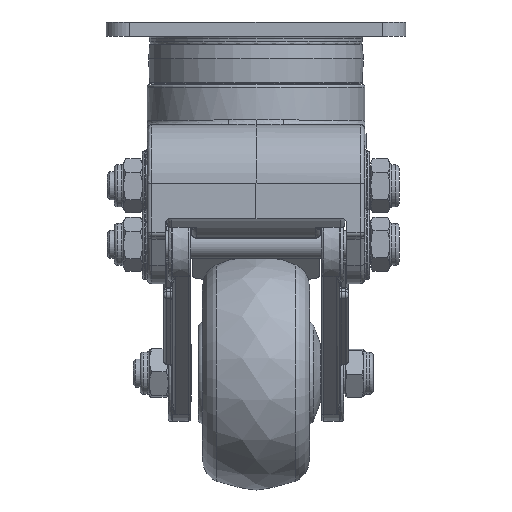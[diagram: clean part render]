
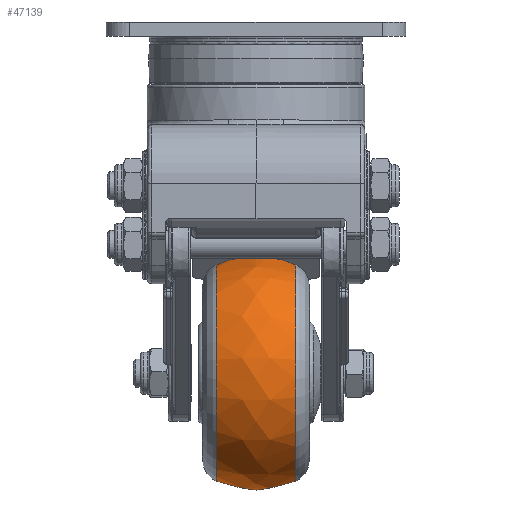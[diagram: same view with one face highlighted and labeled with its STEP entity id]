
A CAD part, left-side view. The second image highlights one B-rep face of the part: STEP entity #47139.
In plain terms, the highlighted free-form (B-spline) face has degree [2, 2] with [3, 9] control points.
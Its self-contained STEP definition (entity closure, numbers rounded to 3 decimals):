
#14=(
BOUNDED_SURFACE()
B_SPLINE_SURFACE(2,2,((#72335,#72336,#72337,#72338,#72339,#72340,#72341,
#72342,#72343),(#72344,#72345,#72346,#72347,#72348,#72349,#72350,#72351,
#72352),(#72353,#72354,#72355,#72356,#72357,#72358,#72359,#72360,#72361)),
 .UNSPECIFIED.,.F.,.T.,.F.)
B_SPLINE_SURFACE_WITH_KNOTS((3,3),(3,2,2,2,3),(-0.44,0.44),
(-3.142,-1.571,0.,1.571,3.142),
 .UNSPECIFIED.)
GEOMETRIC_REPRESENTATION_ITEM()
RATIONAL_B_SPLINE_SURFACE(((1.,0.707,1.,0.707,1.,
0.707,1.,0.707,1.),(0.905,0.64,
0.905,0.64,0.905,0.64,0.905,
0.64,0.905),(1.,0.707,1.,0.707,
1.,0.707,1.,0.707,1.)))
REPRESENTATION_ITEM('')
SURFACE()
);
#4659=CIRCLE('',#50569,23.096);
#4660=CIRCLE('',#50570,23.096);
#4661=CIRCLE('',#50571,20.);
#4662=CIRCLE('',#50572,23.096);
#4663=CIRCLE('',#50573,23.096);
#6297=FACE_OUTER_BOUND('',#9030,.T.);
#9030=EDGE_LOOP('',(#32343,#32344,#32345,#32346,#32347,#32348));
#18828=VERTEX_POINT('',#72362);
#18829=VERTEX_POINT('',#72363);
#18830=VERTEX_POINT('',#72366);
#18831=VERTEX_POINT('',#72368);
#23852=EDGE_CURVE('',#18828,#18829,#4659,.T.);
#23853=EDGE_CURVE('',#18829,#18828,#4660,.T.);
#23854=EDGE_CURVE('',#18829,#18830,#4661,.T.);
#23855=EDGE_CURVE('',#18830,#18831,#4662,.T.);
#23856=EDGE_CURVE('',#18831,#18830,#4663,.T.);
#32343=ORIENTED_EDGE('',*,*,#23852,.F.);
#32344=ORIENTED_EDGE('',*,*,#23853,.F.);
#32345=ORIENTED_EDGE('',*,*,#23854,.T.);
#32346=ORIENTED_EDGE('',*,*,#23855,.T.);
#32347=ORIENTED_EDGE('',*,*,#23856,.T.);
#32348=ORIENTED_EDGE('',*,*,#23854,.F.);
#47139=ADVANCED_FACE('',(#6297),#14,.F.);
#50569=AXIS2_PLACEMENT_3D('',#72364,#56544,#56545);
#50570=AXIS2_PLACEMENT_3D('',#72365,#56546,#56547);
#50571=AXIS2_PLACEMENT_3D('',#72367,#56548,#56549);
#50572=AXIS2_PLACEMENT_3D('',#72369,#56550,#56551);
#50573=AXIS2_PLACEMENT_3D('',#72370,#56552,#56553);
#56544=DIRECTION('center_axis',(0.,-1.,0.));
#56545=DIRECTION('ref_axis',(0.051,0.,-0.999));
#56546=DIRECTION('center_axis',(0.,-1.,0.));
#56547=DIRECTION('ref_axis',(0.051,0.,-0.999));
#56548=DIRECTION('center_axis',(-0.999,0.,
-0.051));
#56549=DIRECTION('ref_axis',(-0.051,0.,
0.999));
#56550=DIRECTION('center_axis',(0.,-1.,0.));
#56551=DIRECTION('ref_axis',(0.051,0.,-0.999));
#56552=DIRECTION('center_axis',(0.,-1.,0.));
#56553=DIRECTION('ref_axis',(0.051,0.,-0.999));
#72335=CARTESIAN_POINT('Ctrl Pts',(-42.811,-25.477,
6.017));
#72336=CARTESIAN_POINT('Ctrl Pts',(-65.877,-25.477,
4.836));
#72337=CARTESIAN_POINT('Ctrl Pts',(-64.696,-25.477,
-18.23));
#72338=CARTESIAN_POINT('Ctrl Pts',(-63.514,-25.477,
-41.296));
#72339=CARTESIAN_POINT('Ctrl Pts',(-40.448,-25.477,
-40.115));
#72340=CARTESIAN_POINT('Ctrl Pts',(-17.382,-25.477,
-38.933));
#72341=CARTESIAN_POINT('Ctrl Pts',(-18.564,-25.477,
-15.867));
#72342=CARTESIAN_POINT('Ctrl Pts',(-19.745,-25.477,
7.199));
#72343=CARTESIAN_POINT('Ctrl Pts',(-42.811,-25.477,
6.017));
#72344=CARTESIAN_POINT('Ctrl Pts',(-43.016,-33.993,
10.02));
#72345=CARTESIAN_POINT('Ctrl Pts',(-70.085,-33.993,
8.633));
#72346=CARTESIAN_POINT('Ctrl Pts',(-68.698,-33.993,
-18.435));
#72347=CARTESIAN_POINT('Ctrl Pts',(-67.312,-33.993,
-45.504));
#72348=CARTESIAN_POINT('Ctrl Pts',(-40.243,-33.993,-44.117));
#72349=CARTESIAN_POINT('Ctrl Pts',(-13.175,-33.993,
-42.731));
#72350=CARTESIAN_POINT('Ctrl Pts',(-14.561,-33.993,
-15.662));
#72351=CARTESIAN_POINT('Ctrl Pts',(-15.948,-33.993,
11.406));
#72352=CARTESIAN_POINT('Ctrl Pts',(-43.016,-33.993,
10.02));
#72353=CARTESIAN_POINT('Ctrl Pts',(-42.811,-42.51,
6.017));
#72354=CARTESIAN_POINT('Ctrl Pts',(-65.877,-42.51,
4.836));
#72355=CARTESIAN_POINT('Ctrl Pts',(-64.696,-42.51,
-18.23));
#72356=CARTESIAN_POINT('Ctrl Pts',(-63.514,-42.51,
-41.296));
#72357=CARTESIAN_POINT('Ctrl Pts',(-40.448,-42.51,
-40.115));
#72358=CARTESIAN_POINT('Ctrl Pts',(-17.382,-42.51,
-38.933));
#72359=CARTESIAN_POINT('Ctrl Pts',(-18.564,-42.51,-15.867));
#72360=CARTESIAN_POINT('Ctrl Pts',(-19.745,-42.51,7.199));
#72361=CARTESIAN_POINT('Ctrl Pts',(-42.811,-42.51,
6.017));
#72362=CARTESIAN_POINT('',(-40.448,-42.51,-40.115));
#72363=CARTESIAN_POINT('',(-42.811,-42.51,6.017));
#72364=CARTESIAN_POINT('Origin',(-41.63,-42.51,-17.049));
#72365=CARTESIAN_POINT('Origin',(-41.63,-42.51,-17.049));
#72366=CARTESIAN_POINT('',(-42.811,-25.477,6.017));
#72367=CARTESIAN_POINT('Origin',(-41.885,-33.993,-12.055));
#72368=CARTESIAN_POINT('',(-40.448,-25.477,-40.115));
#72369=CARTESIAN_POINT('Origin',(-41.63,-25.477,-17.049));
#72370=CARTESIAN_POINT('Origin',(-41.63,-25.477,-17.049));
